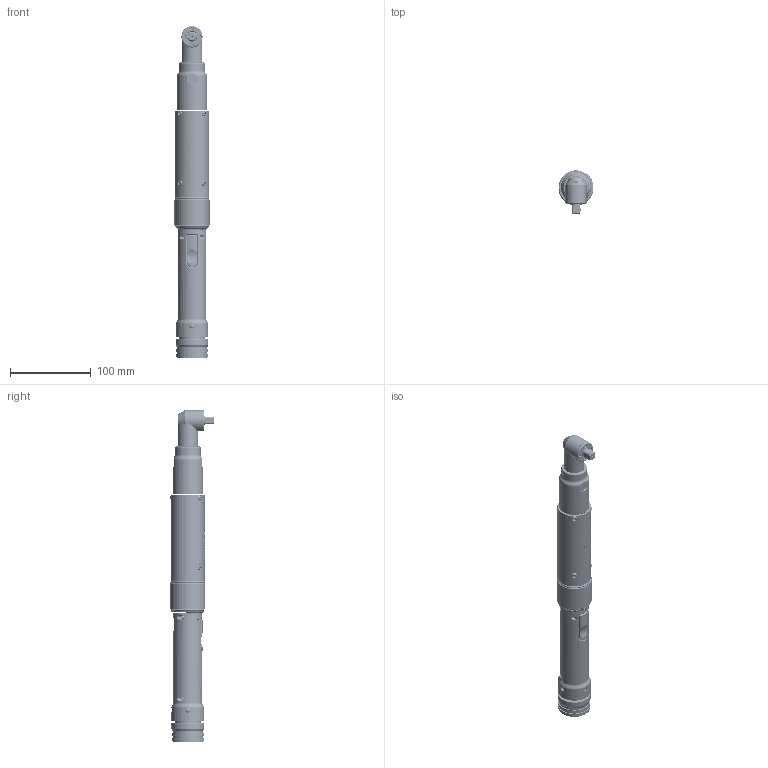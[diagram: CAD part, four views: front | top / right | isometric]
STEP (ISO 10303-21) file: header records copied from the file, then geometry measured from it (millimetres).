
FILE_DESCRIPTION (( 'STEP AP214' ), '1' );
FILE_NAME ('AEN4C220_ _B.STEP', '2020-03-10T16:00:02', ( '' ), ( '' ), 'SwSTEP 2.0', 'SolidWorks 2019', '' );
FILE_SCHEMA (( 'AUTOMOTIVE_DESIGN' ));
Length unit declared in the file: inch
Products named in the file (1): AEN4C220_ _B
Bounding box: 43.31 x 53.71 x 409.98 mm (x, y, z)
Volume: 184413.2 mm3; surface area: 151924.2 mm2
Topology: 100 solids, 100 shells, 5849 faces, 14816 edges, 9379 vertices
Faces by surface type: plane 1785, cylinder 1591, bspline 1262, cone 703, torus 455, sphere 53
Entity records: 295763 total; most frequent: CARTESIAN_POINT 87203, ORIENTED_EDGE 29422, DIRECTION 23977, EDGE_CURVE 14711, AXIS2_PLACEMENT_3D 9483, VERTEX_POINT 9343, EDGE_LOOP 6404, DIMENSIONAL_EXPONENTS 5951
